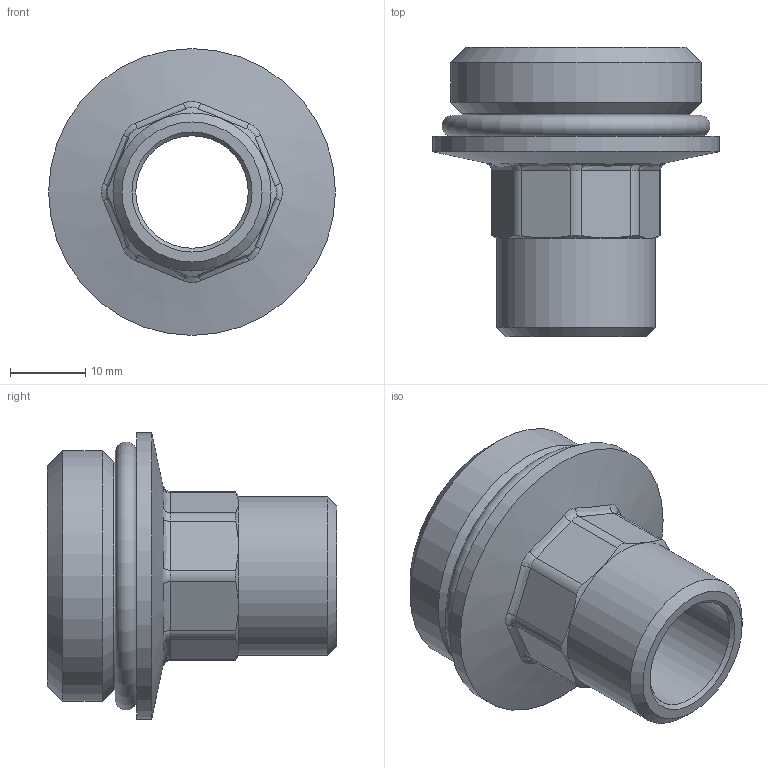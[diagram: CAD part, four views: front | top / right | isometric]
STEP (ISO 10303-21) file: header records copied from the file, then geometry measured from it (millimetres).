
FILE_DESCRIPTION(('STEP AP242'), '1');
FILE_NAME('覆.302634.092.000 捘 - VTr.601.N.0604', '', ('UNSPECIFIED'), ('UNSPECIFIED'), 'C3D Converter', 'C3D Toolkit', '');
FILE_SCHEMA(('AP242_MANAGED_MODEL_BASED_3D_ENGINEERING_MIM_LF { 1 0 10303 442 1 1 4 }'));
Length unit declared in the file: millimetre
Products named in the file (3): ВР.302634.092.000 СБ; ВР.753157.025
Assembly tree (2 placements, depth 2):
  ВР.302634.092.000 СБ
    ВР.753157.025
    (unnamed)
Bounding box: 38 x 38.3 x 38 mm (x, y, z)
Volume: 10685 mm3; surface area: 7826.3 mm2
Topology: 2 solids, 2 shells, 52 faces, 129 edges, 82 vertices
Faces by surface type: bspline 16, cylinder 14, plane 11, cone 8, torus 3
Full cylindrical faces by diameter (mm): 14.9 x1, 20.955 x1, 25.5 x1, 30 x1, 33.249 x1, 38 x1
Entity records: 3787 total; most frequent: CARTESIAN_POINT 2635, ORIENTED_EDGE 202, DIRECTION 148, EDGE_CURVE 101, EDGE_LOOP 70, VERTEX_POINT 69, B_SPLINE_CURVE_WITH_KNOTS 68, AXIS2_PLACEMENT_3D 66
